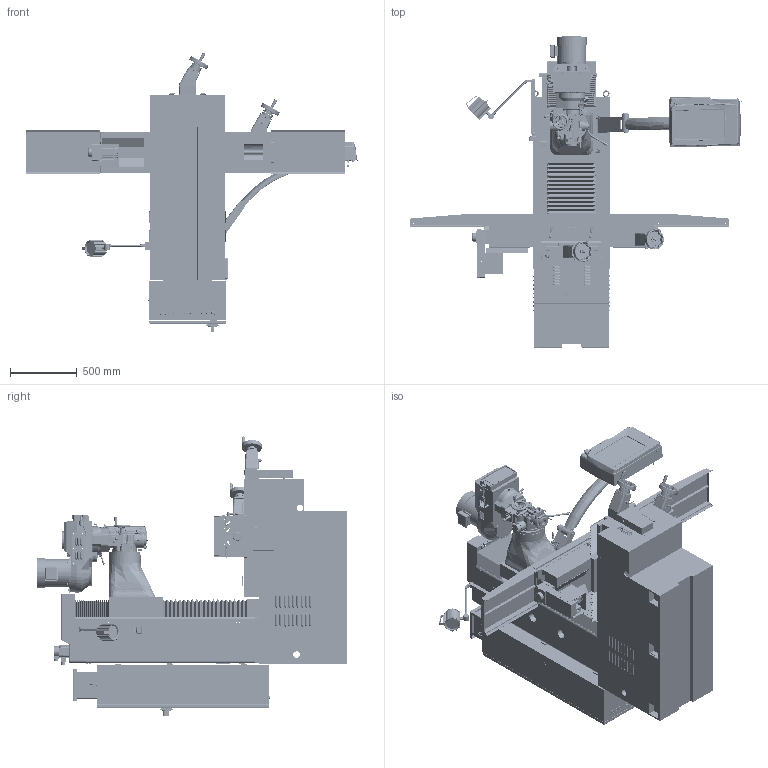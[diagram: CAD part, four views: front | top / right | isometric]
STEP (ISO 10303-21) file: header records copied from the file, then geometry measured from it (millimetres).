
FILE_DESCRIPTION( ( 'Unknown' ), '1' );
FILE_NAME( '//SERVERENG2/Data/DRAWINGS/29605.stp', 'Unknown', ( 'Unknown' ), ( 'Unknown' ), 'PSStep 14.0', 'Unknown', ' ' );
FILE_SCHEMA( ( 'AUTOMOTIVE_DESIGN { 1 0 10303 214 1 1 1 1 }' ) );
Length unit declared in the file: millimetre
Products named in the file (271): Assem1; -oa0
Assembly tree (270 placements, depth 2):
  Assem1
    -oa0
    -oa0
    -oa0
    -oa0
    -oa0
    -oa0
    -oa0
    -oa0
    -oa0
    -oa0
    -oa0
    -oa0
    -oa0
    -oa0
    -oa0
    -oa0
    -oa0
    -oa0
    -oa0
    -oa0
    -oa0
    -oa0
    -oa0
    -oa0
    -oa0
    -oa0
    -oa0
    -oa0
    -oa0
    -oa0
    -oa0
    -oa0
    -oa0
    -oa0
    -oa0
    -oa0
    -oa0
    -oa0
    -oa0
    -oa0
    -oa0
    -oa0
    -oa0
    -oa0
    -oa0
    -oa0
    -oa0
    -oa0
    -oa0
    -oa0
    -oa0
    -oa0
    -oa0
    -oa0
    -oa0
    -oa0
    -oa0
    -oa0
    -oa0
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Bounding box: 2488.72 x 2330.51 x 2092.66 mm (x, y, z)
Surface area: 29342606.4 mm2 (no closed solid volume)
Topology: 0 solids, 3691 shells, 3692 faces, 24495 edges, 24016 vertices
Faces by surface type: plane 2191, cylinder 873, bspline 216, cone 177, sphere 152, torus 72, extrusion 6, revolution 5
Full cylindrical faces by diameter (mm): 7 x1, 7.925 x1, 8 x2, 8.5 x1, 9.095 x3, 9.3 x1, 9.5 x3, 9.525 x6, 9.652 x2, 10 x12, 10.16 x2, 10.678 x1, 10.693 x2, 11 x7, 11.1 x3, 11.325 x7, 11.326 x4, 12 x1, 12.499 x1, 12.5 x1, 12.7 x15, 12.878 x1, 13 x2, 13.3 x2, 13.97 x1, 14 x1, 14.406 x1, 14.935 x2, 14.958 x1, 15 x5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
Entity records: 282989 total; most frequent: CARTESIAN_POINT 96604, DIRECTION 37070, ORIENTED_EDGE 23948, EDGE_CURVE 23948, VERTEX_POINT 23948, VECTOR 13950, LINE 13944, AXIS2_PLACEMENT_3D 11557
